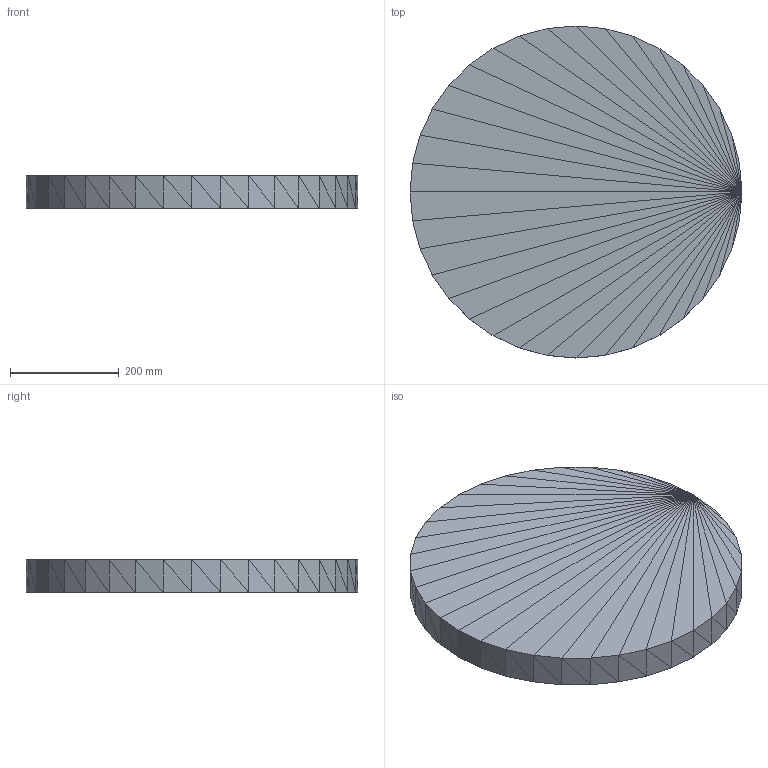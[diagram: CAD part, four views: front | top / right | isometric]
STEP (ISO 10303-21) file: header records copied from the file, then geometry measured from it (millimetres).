
FILE_DESCRIPTION(('ISINAC STEP AP214'),'2;1');
FILE_NAME('ISINAC_CIR.610_60mm_ADHESIVO','2026-05-03T10:49:19',('ISINAC'),('www.isinac.com'),'ISINAC BIM Generator 1.0','','');
FILE_SCHEMA(('AUTOMOTIVE_DESIGN'));
Length unit declared in the file: millimetre
Products named in the file (1): ISINAC_CIR.610_60mm_ADHESIVO
Bounding box: 610 x 610 x 60 mm (x, y, z)
Surface area: 696366.7 mm2 (no closed solid volume)
Topology: 0 solids, 140 shells, 140 faces, 420 edges, 420 vertices
Faces by surface type: plane 140
Entity records: 1553 total; most frequent: CARTESIAN_POINT 560, DIRECTION 280, POLY_LOOP 140, FACE_OUTER_BOUND 140, AXIS2_PLACEMENT_3D 140, PLANE 140, FACE_SURFACE 140, CLOSED_SHELL 1
